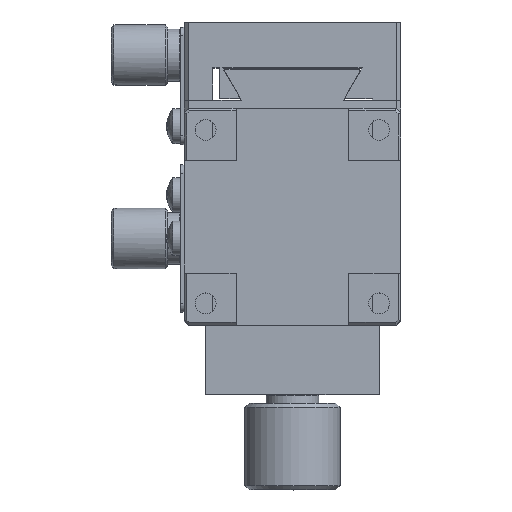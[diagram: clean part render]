
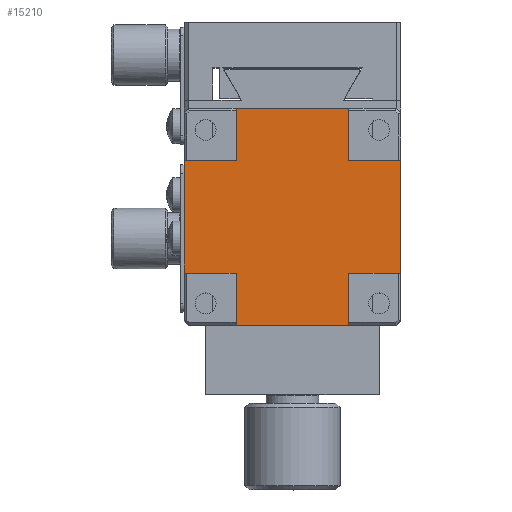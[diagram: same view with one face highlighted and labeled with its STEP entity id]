
A CAD part, top view. The second image highlights one B-rep face of the part: STEP entity #15210.
In plain terms, the highlighted planar face has unit normal (0, 0, 1).
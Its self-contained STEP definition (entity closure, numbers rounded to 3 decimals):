
#869 = CARTESIAN_POINT ( 'NONE',  ( 25., -14., 27.1 ) ) ;
#1726 = CARTESIAN_POINT ( 'NONE',  ( 25., 5., 27.1 ) ) ;
#2133 = CARTESIAN_POINT ( 'NONE',  ( 6., -1., 27.1 ) ) ;
#2549 = DIRECTION ( 'NONE',  ( 1., 0., 0. ) ) ;
#2702 = EDGE_CURVE ( 'NONE', #35403, #16908, #23940, .T. ) ;
#3072 = LINE ( 'NONE', #33552, #46050 ) ;
#3138 = CARTESIAN_POINT ( 'NONE',  ( 0., -1., 27.1 ) ) ;
#3196 = ORIENTED_EDGE ( 'NONE', *, *, #50011, .F. ) ;
#3380 = VECTOR ( 'NONE', #33174, 1000. ) ;
#4788 = VERTEX_POINT ( 'NONE', #27632 ) ;
#4821 = LINE ( 'NONE', #1726, #15066 ) ;
#4906 = PLANE ( 'NONE',  #32094 ) ;
#5699 = CARTESIAN_POINT ( 'NONE',  ( 6., 5., 27.1 ) ) ;
#5854 = VERTEX_POINT ( 'NONE', #3138 ) ;
#6444 = LINE ( 'NONE', #24977, #46474 ) ;
#7245 = ORIENTED_EDGE ( 'NONE', *, *, #12965, .T. ) ;
#7359 = VERTEX_POINT ( 'NONE', #38898 ) ;
#7868 = CARTESIAN_POINT ( 'NONE',  ( 19., -1., 27.1 ) ) ;
#7907 = LINE ( 'NONE', #16086, #16565 ) ;
#10093 = ORIENTED_EDGE ( 'NONE', *, *, #15061, .F. ) ;
#11226 = EDGE_CURVE ( 'NONE', #20647, #34206, #3072, .T. ) ;
#11232 = EDGE_CURVE ( 'NONE', #12389, #22313, #14087, .T. ) ;
#12389 = VERTEX_POINT ( 'NONE', #28336 ) ;
#12965 = EDGE_CURVE ( 'NONE', #35403, #34206, #4821, .T. ) ;
#13935 = CARTESIAN_POINT ( 'NONE',  ( 0., -20., 27.1 ) ) ;
#14087 = LINE ( 'NONE', #14342, #14964 ) ;
#14196 = DIRECTION ( 'NONE',  ( 1., 0., 0. ) ) ;
#14217 = CARTESIAN_POINT ( 'NONE',  ( 0., -14., 27.1 ) ) ;
#14342 = CARTESIAN_POINT ( 'NONE',  ( 0., 5., 27.1 ) ) ;
#14964 = VECTOR ( 'NONE', #29720, 1000. ) ;
#14987 = DIRECTION ( 'NONE',  ( 0., -1., 0. ) ) ;
#15061 = EDGE_CURVE ( 'NONE', #16908, #50628, #22157, .T. ) ;
#15066 = VECTOR ( 'NONE', #28141, 1000. ) ;
#15210 = ADVANCED_FACE ( 'NONE', ( #16690 ), #4906, .T. ) ;
#15786 = VERTEX_POINT ( 'NONE', #21943 ) ;
#16086 = CARTESIAN_POINT ( 'NONE',  ( 6., 5., 27.1 ) ) ;
#16469 = CARTESIAN_POINT ( 'NONE',  ( 25., -14., 27.1 ) ) ;
#16565 = VECTOR ( 'NONE', #36040, 1000. ) ;
#16690 = FACE_OUTER_BOUND ( 'NONE', #25442, .T. ) ;
#16908 = VERTEX_POINT ( 'NONE', #47849 ) ;
#17023 = ORIENTED_EDGE ( 'NONE', *, *, #17517, .F. ) ;
#17517 = EDGE_CURVE ( 'NONE', #4788, #15786, #32926, .T. ) ;
#17802 = CARTESIAN_POINT ( 'NONE',  ( 19., -20., 27.1 ) ) ;
#20471 = VECTOR ( 'NONE', #30091, 1000. ) ;
#20647 = VERTEX_POINT ( 'NONE', #7868 ) ;
#21146 = EDGE_CURVE ( 'NONE', #12389, #20647, #35547, .T. ) ;
#21237 = EDGE_CURVE ( 'NONE', #5854, #30924, #39881, .T. ) ;
#21943 = CARTESIAN_POINT ( 'NONE',  ( 0., -14., 27.1 ) ) ;
#21979 = VECTOR ( 'NONE', #28027, 1000. ) ;
#22157 = LINE ( 'NONE', #17802, #20471 ) ;
#22313 = VERTEX_POINT ( 'NONE', #5699 ) ;
#23161 = VECTOR ( 'NONE', #40893, 1000. ) ;
#23317 = ORIENTED_EDGE ( 'NONE', *, *, #11232, .T. ) ;
#23940 = LINE ( 'NONE', #869, #21979 ) ;
#24977 = CARTESIAN_POINT ( 'NONE',  ( 6., -20., 27.1 ) ) ;
#25442 = EDGE_LOOP ( 'NONE', ( #43450, #17023, #48036, #29389, #10093, #41168, #7245, #48505, #40929, #23317, #3196, #44696 ) ) ;
#25971 = LINE ( 'NONE', #13935, #30797 ) ;
#27632 = CARTESIAN_POINT ( 'NONE',  ( 6., -14., 27.1 ) ) ;
#28027 = DIRECTION ( 'NONE',  ( -1., 0., 0. ) ) ;
#28141 = DIRECTION ( 'NONE',  ( 0., 1., 0. ) ) ;
#28336 = CARTESIAN_POINT ( 'NONE',  ( 19., 5., 27.1 ) ) ;
#29389 = ORIENTED_EDGE ( 'NONE', *, *, #39936, .T. ) ;
#29720 = DIRECTION ( 'NONE',  ( -1., 0., 0. ) ) ;
#30091 = DIRECTION ( 'NONE',  ( 0., -1., 0. ) ) ;
#30797 = VECTOR ( 'NONE', #14196, 1000. ) ;
#30924 = VERTEX_POINT ( 'NONE', #2133 ) ;
#32094 = AXIS2_PLACEMENT_3D ( 'NONE', #42366, #46465, #14987 ) ;
#32926 = LINE ( 'NONE', #14217, #3380 ) ;
#32942 = VECTOR ( 'NONE', #34787, 1000. ) ;
#33174 = DIRECTION ( 'NONE',  ( -1., 0., 0. ) ) ;
#33377 = VECTOR ( 'NONE', #41909, 1000. ) ;
#33552 = CARTESIAN_POINT ( 'NONE',  ( 25., -1., 27.1 ) ) ;
#34206 = VERTEX_POINT ( 'NONE', #42028 ) ;
#34734 = LINE ( 'NONE', #46007, #33377 ) ;
#34787 = DIRECTION ( 'NONE',  ( 0., -1., 0. ) ) ;
#35403 = VERTEX_POINT ( 'NONE', #16469 ) ;
#35547 = LINE ( 'NONE', #39383, #32942 ) ;
#36040 = DIRECTION ( 'NONE',  ( 0., 1., 0. ) ) ;
#38898 = CARTESIAN_POINT ( 'NONE',  ( 6., -20., 27.1 ) ) ;
#39383 = CARTESIAN_POINT ( 'NONE',  ( 19., 5., 27.1 ) ) ;
#39881 = LINE ( 'NONE', #44726, #23161 ) ;
#39936 = EDGE_CURVE ( 'NONE', #7359, #50628, #25971, .T. ) ;
#39960 = CARTESIAN_POINT ( 'NONE',  ( 19., -20., 27.1 ) ) ;
#40581 = DIRECTION ( 'NONE',  ( 0., 1., 0. ) ) ;
#40893 = DIRECTION ( 'NONE',  ( 1., 0., 0. ) ) ;
#40929 = ORIENTED_EDGE ( 'NONE', *, *, #21146, .F. ) ;
#41168 = ORIENTED_EDGE ( 'NONE', *, *, #2702, .F. ) ;
#41909 = DIRECTION ( 'NONE',  ( 0., -1., 0. ) ) ;
#42028 = CARTESIAN_POINT ( 'NONE',  ( 25., -1., 27.1 ) ) ;
#42366 = CARTESIAN_POINT ( 'NONE',  ( 12.5, -7.5, 27.1 ) ) ;
#42695 = EDGE_CURVE ( 'NONE', #5854, #15786, #34734, .T. ) ;
#43029 = EDGE_CURVE ( 'NONE', #7359, #4788, #6444, .T. ) ;
#43450 = ORIENTED_EDGE ( 'NONE', *, *, #42695, .T. ) ;
#44696 = ORIENTED_EDGE ( 'NONE', *, *, #21237, .F. ) ;
#44726 = CARTESIAN_POINT ( 'NONE',  ( 0., -1., 27.1 ) ) ;
#46007 = CARTESIAN_POINT ( 'NONE',  ( 0., 5., 27.1 ) ) ;
#46050 = VECTOR ( 'NONE', #2549, 1000. ) ;
#46465 = DIRECTION ( 'NONE',  ( 0., 0., 1. ) ) ;
#46474 = VECTOR ( 'NONE', #40581, 1000. ) ;
#47849 = CARTESIAN_POINT ( 'NONE',  ( 19., -14., 27.1 ) ) ;
#48036 = ORIENTED_EDGE ( 'NONE', *, *, #43029, .F. ) ;
#48505 = ORIENTED_EDGE ( 'NONE', *, *, #11226, .F. ) ;
#50011 = EDGE_CURVE ( 'NONE', #30924, #22313, #7907, .T. ) ;
#50628 = VERTEX_POINT ( 'NONE', #39960 ) ;
